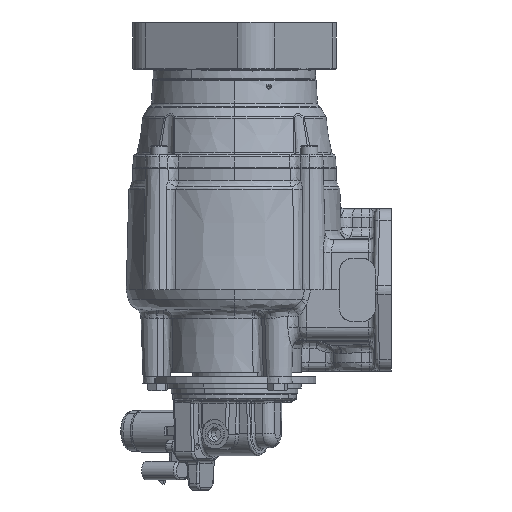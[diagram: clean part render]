
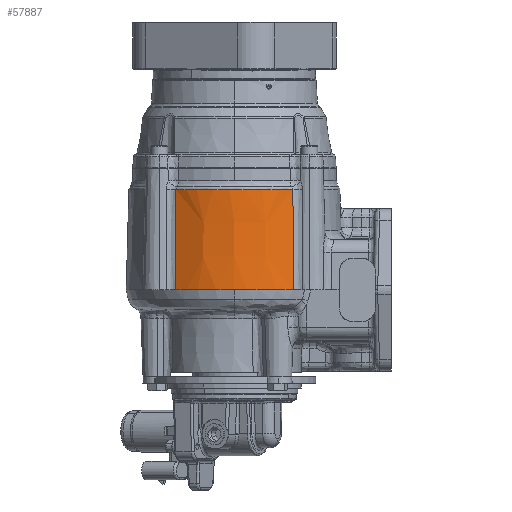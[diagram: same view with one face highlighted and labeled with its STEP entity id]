
A CAD part, left-side view. The second image highlights one B-rep face of the part: STEP entity #57887.
In plain terms, the highlighted conical face has half-angle 1.5 degrees and reference radius 76.073 mm.
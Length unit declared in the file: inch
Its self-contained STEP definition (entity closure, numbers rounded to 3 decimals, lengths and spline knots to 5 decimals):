
#2966 = CONICAL_SURFACE ( 'NONE', #121829, 2.995, 0.026 ) ;
#5511 = CARTESIAN_POINT ( 'NONE',  ( -3.55021, 4.8964, 2.77827 ) ) ;
#9973 = CARTESIAN_POINT ( 'NONE',  ( -3.56059, 5.02709, 0. ) ) ;
#10582 = EDGE_CURVE ( 'NONE', #153756, #129251, #139970, .T. ) ;
#12563 = CARTESIAN_POINT ( 'NONE',  ( -3.67239, 2.4023, 2.77827 ) ) ;
#19759 = CARTESIAN_POINT ( 'NONE',  ( -0.9685, 3.51989, 0. ) ) ;
#22823 = CARTESIAN_POINT ( 'NONE',  ( -3.62985, 2.13867, 0. ) ) ;
#28101 = CARTESIAN_POINT ( 'NONE',  ( -3.88021, 3.8062, 2.77827 ) ) ;
#28804 = CARTESIAN_POINT ( 'NONE',  ( -3.48267, 1.89232, 0. ) ) ;
#33226 = CARTESIAN_POINT ( 'NONE',  ( -3.74964, 2.39923, 0. ) ) ;
#34981 = CARTESIAN_POINT ( 'NONE',  ( -3.91214, 2.94929, 0. ) ) ;
#37661 = CARTESIAN_POINT ( 'NONE',  ( -3.80015, 4.50596, 0. ) ) ;
#38525 = CARTESIAN_POINT ( 'NONE',  ( -3.47959, 2.01841, 2.77827 ) ) ;
#41076 = B_SPLINE_CURVE_WITH_KNOTS ( 'NONE', 3,
 ( #103430, #156266, #113871, #101739, #127711, #37661, #100887, #90459, #9973, #75742 ),
 .UNSPECIFIED., .F., .F.,
 ( 4, 2, 2, 2, 4 ),
 ( 0., 0.25, 0.5, 0.75, 1. ),
 .UNSPECIFIED. ) ;
#41917 = CARTESIAN_POINT ( 'NONE',  ( -3.83828, 4.08942, 2.77827 ) ) ;
#44010 = DIRECTION ( 'NONE',  ( 0., 0., -1. ) ) ;
#46219 = CARTESIAN_POINT ( 'NONE',  ( -3.48267, 1.89232, 0. ) ) ;
#46602 = FACE_OUTER_BOUND ( 'NONE', #157850, .T. ) ;
#51089 = VERTEX_POINT ( 'NONE', #151282 ) ;
#52354 = CARTESIAN_POINT ( 'NONE',  ( -3.55021, 2.14337, 2.77827 ) ) ;
#52848 = EDGE_CURVE ( 'NONE', #129251, #51089, #41076, .T. ) ;
#57887 = ADVANCED_FACE ( 'NONE', ( #46602 ), #2966, .T. ) ;
#62601 = CARTESIAN_POINT ( 'NONE',  ( -3.80015, 2.53382, 0. ) ) ;
#67969 = ORIENTED_EDGE ( 'NONE', *, *, #69007, .T. ) ;
#69007 = EDGE_CURVE ( 'NONE', #83432, #97469, #152077, .T. ) ;
#74724 = CARTESIAN_POINT ( 'NONE',  ( -3.8814, 2.80885, 0. ) ) ;
#75742 = CARTESIAN_POINT ( 'NONE',  ( -3.48267, 5.14745, 0. ) ) ;
#77470 = CARTESIAN_POINT ( 'NONE',  ( -3.4002, 1.89928, 2.77827 ) ) ;
#80848 = CARTESIAN_POINT ( 'NONE',  ( -3.47959, 5.02137, 2.77827 ) ) ;
#83432 = VERTEX_POINT ( 'NONE', #126514 ) ;
#85021 = B_SPLINE_CURVE_WITH_KNOTS ( 'NONE', 3,
 ( #138994, #89637, #168403, #165821 ),
 .UNSPECIFIED., .F., .F.,
 ( 4, 4 ),
 ( 0., 1. ),
 .UNSPECIFIED. ) ;
#86018 = CARTESIAN_POINT ( 'NONE',  ( -3.9635, 3.3765, 0. ) ) ;
#89637 = CARTESIAN_POINT ( 'NONE',  ( -3.42696, 5.14244, 1.88658 ) ) ;
#90459 = CARTESIAN_POINT ( 'NONE',  ( -3.62985, 4.90111, 0. ) ) ;
#91302 = CARTESIAN_POINT ( 'NONE',  ( -3.9635, 3.51989, 0. ) ) ;
#94658 = ORIENTED_EDGE ( 'NONE', *, *, #160135, .T. ) ;
#94715 = CARTESIAN_POINT ( 'NONE',  ( -3.67239, 4.63747, 2.77827 ) ) ;
#95573 = CARTESIAN_POINT ( 'NONE',  ( -3.88021, 3.23358, 2.77827 ) ) ;
#97277 = CARTESIAN_POINT ( 'NONE',  ( -3.89075, 3.37673, 2.77827 ) ) ;
#97469 = VERTEX_POINT ( 'NONE', #111449 ) ;
#98999 = CARTESIAN_POINT ( 'NONE',  ( -3.95318, 3.23311, 0. ) ) ;
#100730 = CARTESIAN_POINT ( 'NONE',  ( -3.9635, 3.51989, 0. ) ) ;
#100887 = CARTESIAN_POINT ( 'NONE',  ( -3.74964, 4.64055, 0. ) ) ;
#101739 = CARTESIAN_POINT ( 'NONE',  ( -3.91214, 4.09049, 0. ) ) ;
#103430 = CARTESIAN_POINT ( 'NONE',  ( -3.9635, 3.51989, 0. ) ) ;
#103889 = B_SPLINE_CURVE_WITH_KNOTS ( 'NONE', 3,
 ( #141131, #167133, #104460, #144298 ),
 .UNSPECIFIED., .F., .F.,
 ( 4, 4 ),
 ( 0., 1. ),
 .UNSPECIFIED. ) ;
#104460 = CARTESIAN_POINT ( 'NONE',  ( -3.42697, 1.89734, 1.88656 ) ) ;
#105137 = CARTESIAN_POINT ( 'NONE',  ( -3.83828, 2.95036, 2.77827 ) ) ;
#107684 = CARTESIAN_POINT ( 'NONE',  ( -3.89075, 3.66304, 2.77827 ) ) ;
#108278 = ORIENTED_EDGE ( 'NONE', *, *, #10582, .F. ) ;
#111449 = CARTESIAN_POINT ( 'NONE',  ( -3.4002, 5.14049, 2.77827 ) ) ;
#113871 = CARTESIAN_POINT ( 'NONE',  ( -3.95318, 3.80667, 0. ) ) ;
#118168 = CARTESIAN_POINT ( 'NONE',  ( -3.8069, 2.81029, 2.77827 ) ) ;
#121829 = AXIS2_PLACEMENT_3D ( 'NONE', #19759, #44010, #149617 ) ;
#124105 = CARTESIAN_POINT ( 'NONE',  ( -3.8069, 4.22948, 2.77827 ) ) ;
#125840 = CARTESIAN_POINT ( 'NONE',  ( -3.56059, 2.01269, 0. ) ) ;
#126514 = CARTESIAN_POINT ( 'NONE',  ( -3.4002, 1.89928, 2.77827 ) ) ;
#127711 = CARTESIAN_POINT ( 'NONE',  ( -3.8814, 4.23093, 0. ) ) ;
#129251 = VERTEX_POINT ( 'NONE', #91302 ) ;
#131167 = CARTESIAN_POINT ( 'NONE',  ( -3.72395, 2.53626, 2.77827 ) ) ;
#133675 = CARTESIAN_POINT ( 'NONE',  ( -3.4002, 5.14049, 2.77827 ) ) ;
#138994 = CARTESIAN_POINT ( 'NONE',  ( -3.4002, 5.14049, 2.77827 ) ) ;
#139970 = B_SPLINE_CURVE_WITH_KNOTS ( 'NONE', 3,
 ( #46219, #125840, #22823, #33226, #62601, #74724, #34981, #98999, #86018, #100730 ),
 .UNSPECIFIED., .F., .F.,
 ( 4, 2, 2, 2, 4 ),
 ( 0., 0.25, 0.5, 0.75, 1. ),
 .UNSPECIFIED. ) ;
#141131 = CARTESIAN_POINT ( 'NONE',  ( -3.48267, 1.89232, 0. ) ) ;
#144298 = CARTESIAN_POINT ( 'NONE',  ( -3.4002, 1.89928, 2.77827 ) ) ;
#149617 = DIRECTION ( 'NONE',  ( 0., 1., 0. ) ) ;
#151246 = ORIENTED_EDGE ( 'NONE', *, *, #52848, .F. ) ;
#151282 = CARTESIAN_POINT ( 'NONE',  ( -3.48267, 5.14745, 0. ) ) ;
#152077 = B_SPLINE_CURVE_WITH_KNOTS ( 'NONE', 3,
 ( #77470, #38525, #52354, #12563, #131167, #118168, #105137, #95573, #97277, #107684, #28101, #41917, #124105, #163066, #94715, #5511, #80848, #133675 ),
 .UNSPECIFIED., .F., .F.,
 ( 4, 2, 2, 2, 2, 2, 2, 2, 4 ),
 ( 0., 0.125, 0.25, 0.375, 0.5, 0.625, 0.75, 0.875, 1. ),
 .UNSPECIFIED. ) ;
#153756 = VERTEX_POINT ( 'NONE', #28804 ) ;
#156266 = CARTESIAN_POINT ( 'NONE',  ( -3.9635, 3.66328, 0. ) ) ;
#157850 = EDGE_LOOP ( 'NONE', ( #94658, #151246, #108278, #161671, #67969 ) ) ;
#158579 = EDGE_CURVE ( 'NONE', #153756, #83432, #103889, .T. ) ;
#160135 = EDGE_CURVE ( 'NONE', #97469, #51089, #85021, .T. ) ;
#161671 = ORIENTED_EDGE ( 'NONE', *, *, #158579, .T. ) ;
#163066 = CARTESIAN_POINT ( 'NONE',  ( -3.72395, 4.50351, 2.77827 ) ) ;
#165821 = CARTESIAN_POINT ( 'NONE',  ( -3.48267, 5.14745, 0. ) ) ;
#167133 = CARTESIAN_POINT ( 'NONE',  ( -3.45445, 1.89501, 0.96047 ) ) ;
#168403 = CARTESIAN_POINT ( 'NONE',  ( -3.45445, 5.14477, 0.96049 ) ) ;
